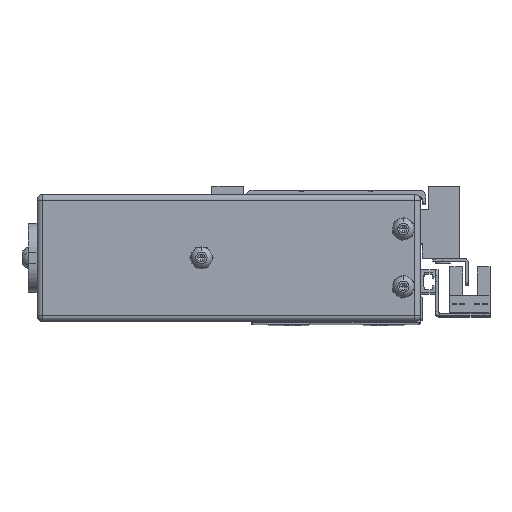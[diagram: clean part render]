
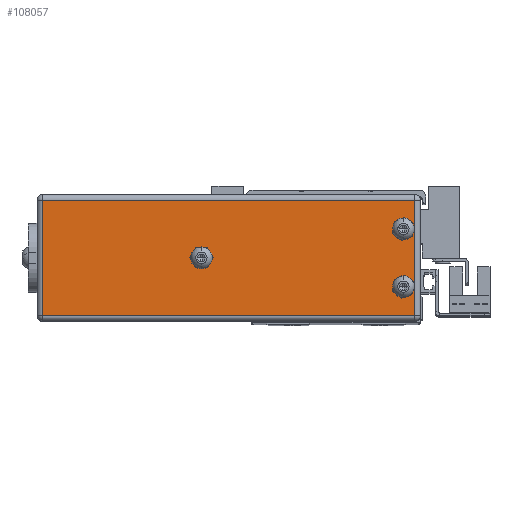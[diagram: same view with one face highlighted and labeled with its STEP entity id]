
A CAD part, top view. The second image highlights one B-rep face of the part: STEP entity #108057.
In plain terms, the highlighted planar face has unit normal (0, 0, 1).
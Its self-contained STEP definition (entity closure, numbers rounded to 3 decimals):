
#5144 = VECTOR ( 'NONE', #151741, 1000. ) ;
#7950 = DIRECTION ( 'NONE',  ( 1., 0., 0. ) ) ;
#11017 = DIRECTION ( 'NONE',  ( 0., 0., 1. ) ) ;
#12791 = EDGE_LOOP ( 'NONE', ( #102200, #117081, #98867, #89647 ) ) ;
#17151 = VECTOR ( 'NONE', #20936, 1000. ) ;
#19528 = DIRECTION ( 'NONE',  ( 0., 0., -1. ) ) ;
#19915 = CARTESIAN_POINT ( 'NONE',  ( -110.161, 20.921, 163. ) ) ;
#20936 = DIRECTION ( 'NONE',  ( -1., 0., 0. ) ) ;
#23868 = VECTOR ( 'NONE', #178792, 1000. ) ;
#25315 = ORIENTED_EDGE ( 'NONE', *, *, #149568, .F. ) ;
#26960 = CARTESIAN_POINT ( 'NONE',  ( -110.161, 20.921, 163. ) ) ;
#29308 = CARTESIAN_POINT ( 'NONE',  ( -107.911, 0.921, 163. ) ) ;
#29897 = VERTEX_POINT ( 'NONE', #45867 ) ;
#32843 = CIRCLE ( 'NONE', #74604, 2.25 ) ;
#33957 = DIRECTION ( 'NONE',  ( 1., 0., 0. ) ) ;
#34920 = CARTESIAN_POINT ( 'NONE',  ( -37.911, 10.921, 163. ) ) ;
#35993 = CIRCLE ( 'NONE', #155346, 2.25 ) ;
#39269 = CARTESIAN_POINT ( 'NONE',  ( -42.411, 10.921, 163. ) ) ;
#40748 = DIRECTION ( 'NONE',  ( 0., 0., 1. ) ) ;
#40970 = DIRECTION ( 'NONE',  ( 0., 0., 1. ) ) ;
#41540 = AXIS2_PLACEMENT_3D ( 'NONE', #19915, #117838, #33957 ) ;
#42907 = CARTESIAN_POINT ( 'NONE',  ( -116.161, -9.079, 163. ) ) ;
#43284 = VECTOR ( 'NONE', #59202, 1000. ) ;
#44953 = CARTESIAN_POINT ( 'NONE',  ( 14.839, -9.079, 163. ) ) ;
#45867 = CARTESIAN_POINT ( 'NONE',  ( -114.161, -9.079, 163. ) ) ;
#48233 = ORIENTED_EDGE ( 'NONE', *, *, #171810, .F. ) ;
#48402 = VERTEX_POINT ( 'NONE', #44953 ) ;
#48424 = CARTESIAN_POINT ( 'NONE',  ( -116.161, 30.921, 163. ) ) ;
#49271 = EDGE_CURVE ( 'NONE', #157298, #118628, #104362, .T. ) ;
#52056 = EDGE_CURVE ( 'NONE', #48402, #66040, #143382, .T. ) ;
#53172 = CARTESIAN_POINT ( 'NONE',  ( -110.161, 0.921, 163. ) ) ;
#53539 = CIRCLE ( 'NONE', #94592, 2.25 ) ;
#54973 = EDGE_LOOP ( 'NONE', ( #101985, #48233 ) ) ;
#55296 = VERTEX_POINT ( 'NONE', #39269 ) ;
#59202 = DIRECTION ( 'NONE',  ( 0., 1., 0. ) ) ;
#59507 = FACE_OUTER_BOUND ( 'NONE', #12791, .T. ) ;
#60712 = AXIS2_PLACEMENT_3D ( 'NONE', #101696, #19528, #63985 ) ;
#60967 = LINE ( 'NONE', #151943, #23868 ) ;
#62293 = CARTESIAN_POINT ( 'NONE',  ( -40.161, 10.921, 163. ) ) ;
#63985 = DIRECTION ( 'NONE',  ( -1., 0., 0. ) ) ;
#66040 = VERTEX_POINT ( 'NONE', #88203 ) ;
#74604 = AXIS2_PLACEMENT_3D ( 'NONE', #53172, #11017, #165019 ) ;
#74915 = CARTESIAN_POINT ( 'NONE',  ( 14.839, -11.079, 163. ) ) ;
#75428 = ORIENTED_EDGE ( 'NONE', *, *, #149112, .F. ) ;
#75959 = CIRCLE ( 'NONE', #158483, 2.25 ) ;
#76461 = VERTEX_POINT ( 'NONE', #34920 ) ;
#78831 = EDGE_CURVE ( 'NONE', #118628, #157298, #150728, .T. ) ;
#88203 = CARTESIAN_POINT ( 'NONE',  ( 14.839, 30.921, 163. ) ) ;
#89647 = ORIENTED_EDGE ( 'NONE', *, *, #160355, .T. ) ;
#90475 = EDGE_CURVE ( 'NONE', #139320, #29897, #60967, .T. ) ;
#91867 = CARTESIAN_POINT ( 'NONE',  ( -110.161, 0.921, 163. ) ) ;
#92018 = EDGE_CURVE ( 'NONE', #76461, #55296, #53539, .T. ) ;
#94592 = AXIS2_PLACEMENT_3D ( 'NONE', #62293, #131540, #7950 ) ;
#98867 = ORIENTED_EDGE ( 'NONE', *, *, #90475, .T. ) ;
#101696 = CARTESIAN_POINT ( 'NONE',  ( -116.161, -11.079, 163. ) ) ;
#101985 = ORIENTED_EDGE ( 'NONE', *, *, #92018, .F. ) ;
#102200 = ORIENTED_EDGE ( 'NONE', *, *, #52056, .T. ) ;
#102871 = FACE_BOUND ( 'NONE', #111506, .T. ) ;
#104362 = CIRCLE ( 'NONE', #117258, 2.25 ) ;
#104606 = DIRECTION ( 'NONE',  ( 1., 0., 0. ) ) ;
#105137 = FACE_BOUND ( 'NONE', #54973, .T. ) ;
#105834 = CARTESIAN_POINT ( 'NONE',  ( -114.161, 30.921, 163. ) ) ;
#108057 = ADVANCED_FACE ( 'NONE', ( #105137, #102871, #120267, #59507 ), #172266, .F. ) ;
#111506 = EDGE_LOOP ( 'NONE', ( #25315, #75428 ) ) ;
#111940 = LINE ( 'NONE', #42907, #5144 ) ;
#117081 = ORIENTED_EDGE ( 'NONE', *, *, #137247, .T. ) ;
#117258 = AXIS2_PLACEMENT_3D ( 'NONE', #26960, #40970, #152252 ) ;
#117838 = DIRECTION ( 'NONE',  ( 0., 0., 1. ) ) ;
#118103 = CARTESIAN_POINT ( 'NONE',  ( -112.411, 20.921, 163. ) ) ;
#118628 = VERTEX_POINT ( 'NONE', #118103 ) ;
#118866 = EDGE_LOOP ( 'NONE', ( #177007, #145493 ) ) ;
#119418 = LINE ( 'NONE', #48424, #17151 ) ;
#120267 = FACE_BOUND ( 'NONE', #118866, .T. ) ;
#130746 = DIRECTION ( 'NONE',  ( 0., 0., 1. ) ) ;
#131540 = DIRECTION ( 'NONE',  ( 0., 0., 1. ) ) ;
#134892 = CARTESIAN_POINT ( 'NONE',  ( -107.911, 20.921, 163. ) ) ;
#137247 = EDGE_CURVE ( 'NONE', #66040, #139320, #119418, .T. ) ;
#137596 = VERTEX_POINT ( 'NONE', #155871 ) ;
#137970 = DIRECTION ( 'NONE',  ( 1., 0., 0. ) ) ;
#139320 = VERTEX_POINT ( 'NONE', #105834 ) ;
#143382 = LINE ( 'NONE', #74915, #43284 ) ;
#145493 = ORIENTED_EDGE ( 'NONE', *, *, #78831, .F. ) ;
#149112 = EDGE_CURVE ( 'NONE', #137596, #165912, #32843, .T. ) ;
#149568 = EDGE_CURVE ( 'NONE', #165912, #137596, #75959, .T. ) ;
#150728 = CIRCLE ( 'NONE', #41540, 2.25 ) ;
#151741 = DIRECTION ( 'NONE',  ( 1., 0., 0. ) ) ;
#151943 = CARTESIAN_POINT ( 'NONE',  ( -114.161, -11.079, 163. ) ) ;
#152252 = DIRECTION ( 'NONE',  ( 1., 0., 0. ) ) ;
#155346 = AXIS2_PLACEMENT_3D ( 'NONE', #180074, #40748, #137970 ) ;
#155871 = CARTESIAN_POINT ( 'NONE',  ( -112.411, 0.921, 163. ) ) ;
#157298 = VERTEX_POINT ( 'NONE', #134892 ) ;
#158483 = AXIS2_PLACEMENT_3D ( 'NONE', #91867, #130746, #104606 ) ;
#160355 = EDGE_CURVE ( 'NONE', #29897, #48402, #111940, .T. ) ;
#165019 = DIRECTION ( 'NONE',  ( 1., 0., 0. ) ) ;
#165912 = VERTEX_POINT ( 'NONE', #29308 ) ;
#171810 = EDGE_CURVE ( 'NONE', #55296, #76461, #35993, .T. ) ;
#172266 = PLANE ( 'NONE',  #60712 ) ;
#177007 = ORIENTED_EDGE ( 'NONE', *, *, #49271, .F. ) ;
#178792 = DIRECTION ( 'NONE',  ( 0., -1., 0. ) ) ;
#180074 = CARTESIAN_POINT ( 'NONE',  ( -40.161, 10.921, 163. ) ) ;
